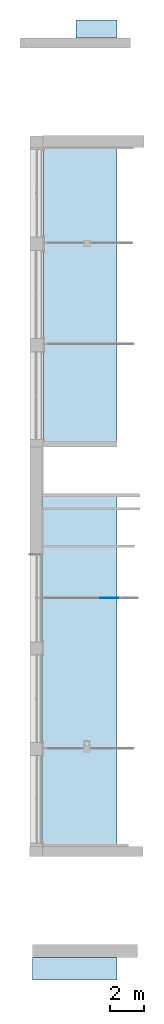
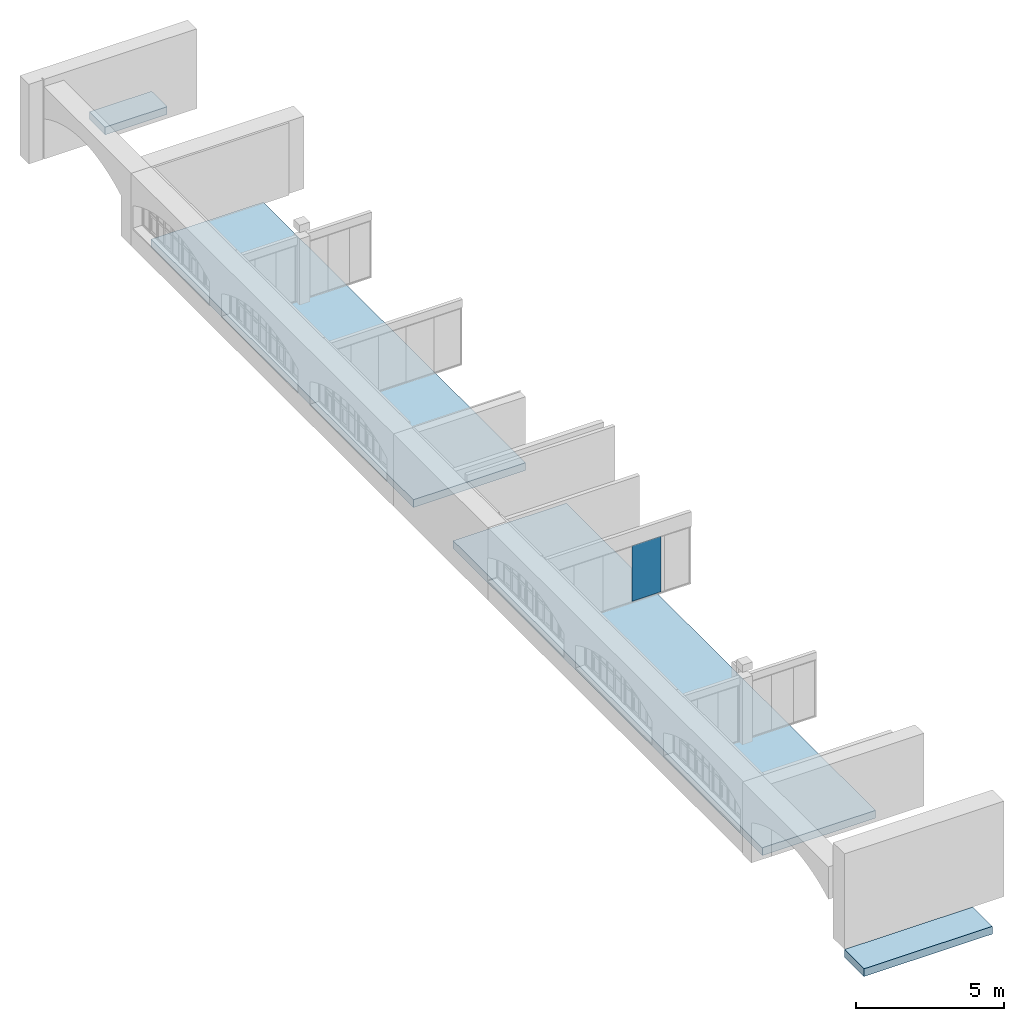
# One storey, part 22 of 32: 1 plate, 1 slab, 8 openings, 1 element without a shape of its own.
"""IFC2X3 building model written with IfcOpenShell, lengths in millimetres."""

import ifcopenshell
import ifcopenshell.guid

model = None  # the IFC model being written
_history = None  # IfcOwnerHistory: only IFC2X3 demands one
_inside = {}  # id of a spatial element -> (the spatial element, [elements in it])
_under = {}  # id of a project, library or spatial element -> (it, [spatial elements below it])
_declared = {}  # id of a project -> (the project, [libraries it declares])
_typed = {}  # id of a type object -> (the type object, [elements of that type])
_made_of = {}  # id of a material, layer set ... -> (it, [elements and type objects made of it])


def new_model(schema):
    """Start an empty IFC model of exactly this schema.

    Asked for "IFC4X3", IfcOpenShell would pick the latest addendum, in which some entities
    have other attributes; the version numbers below select the first issue.
    IFC2X3 requires an IfcOwnerHistory on every rooted entity: one is made here for all.
    """
    global model, _history
    if schema == "IFC4X3":
        model = ifcopenshell.file(schema_version=(4, 3, 0, 0))
    else:
        model = ifcopenshell.file(schema=schema)
    _inside.clear()
    _under.clear()
    _declared.clear()
    _typed.clear()
    _made_of.clear()
    _history = None
    if model.schema == "IFC2X3":
        org = make("IfcOrganization", Name="unknown")
        user = make(
            "IfcPersonAndOrganization",
            ThePerson=make("IfcPerson", FamilyName="unknown"),
            TheOrganization=org,
        )
        app = make(
            "IfcApplication",
            ApplicationDeveloper=org,
            Version="unknown",
            ApplicationFullName="unknown",
            ApplicationIdentifier="unknown",
        )
        _history = make(
            "IfcOwnerHistory",
            OwningUser=user,
            OwningApplication=app,
            ChangeAction="ADDED",
            CreationDate=0,
        )
    return model


def make(cls, **values):
    """One entity of the class cls with the attributes given. An attribute that is None is left unset."""
    return model.create_entity(
        cls, **{name: value for name, value in values.items() if value is not None}
    )


def entity(cls, *values):
    """Any entity or typed value of the class cls, its attributes in the order of the schema. None: left unset."""
    e = model.create_entity(cls)
    for i, value in enumerate(values):
        if value is not None:
            e[i] = value
    return e


def rooted(cls, **values):
    """An entity with a GlobalId (a new one), such as an element, a storey or a relation."""
    return make(cls, GlobalId=ifcopenshell.guid.new(), OwnerHistory=_history, **values)


def si_unit(unit_type, name, prefix=None):
    """IfcSIUnit, for example si_unit("LENGTHUNIT", "METRE", prefix="MILLI")."""
    return make("IfcSIUnit", UnitType=unit_type, Prefix=prefix, Name=name)


def converted_unit(unit_type, name, factor, base, dimensions=None, offset=None):
    """IfcConversionBasedUnit, such as the inch: factor (a typed value) times the base unit."""
    return make(
        "IfcConversionBasedUnit"
        if offset is None
        else "IfcConversionBasedUnitWithOffset",
        ConversionOffset=offset,
        Dimensions=None
        if dimensions is None
        else entity("IfcDimensionalExponents", *dimensions),
        UnitType=unit_type,
        Name=name,
        ConversionFactor=make(
            "IfcMeasureWithUnit", ValueComponent=factor, UnitComponent=base
        ),
    )


def derived_unit(unit_type, elements):
    """IfcDerivedUnit: a product of units, each with its exponent."""
    return make(
        "IfcDerivedUnit",
        Elements=[
            make("IfcDerivedUnitElement", Unit=unit, Exponent=power)
            for unit, power in elements
        ],
        UnitType=unit_type,
    )


def assignment(units):
    """IfcUnitAssignment: the units of a project."""
    return None if units is None else make("IfcUnitAssignment", Units=units)


def point(xyz):
    """IfcCartesianPoint."""
    return None if xyz is None else make("IfcCartesianPoint", Coordinates=xyz)


def direction(xyz):
    """IfcDirection."""
    return None if xyz is None else make("IfcDirection", DirectionRatios=xyz)


def frame(location, z_axis=None, x_axis=None):
    """IfcAxis2Placement3D, a coordinate frame: its origin and axes. An axis left out is left unset."""
    return make(
        "IfcAxis2Placement3D",
        Location=point(location),
        Axis=direction(z_axis),
        RefDirection=direction(x_axis),
    )


def frame_2d(location, x_axis=None):
    """IfcAxis2Placement2D, a coordinate frame in the plane: its origin and x axis."""
    return make(
        "IfcAxis2Placement2D", Location=point(location), RefDirection=direction(x_axis)
    )


def origin():
    """The frame at (0, 0, 0) with its axes left unset."""
    return frame((0.0, 0.0, 0.0))


def place(relative_to, where):
    """IfcLocalPlacement: puts the frame where relative to a parent placement (None: the world)."""
    return make(
        "IfcLocalPlacement", PlacementRelTo=relative_to, RelativePlacement=where
    )


def context(
    kind, dimensions, precision=None, world=None, true_north=None, identifier=None
):
    """IfcGeometricRepresentationContext, for example the 3D "Model" context."""
    return make(
        "IfcGeometricRepresentationContext",
        ContextIdentifier=identifier,
        ContextType=kind,
        CoordinateSpaceDimension=dimensions,
        Precision=precision,
        WorldCoordinateSystem=world,
        TrueNorth=true_north,
    )


def subcontext(parent, identifier, kind, view, scale=None):
    """IfcGeometricRepresentationSubContext, for example "Body" below "Model"."""
    return make(
        "IfcGeometricRepresentationSubContext",
        ContextIdentifier=identifier,
        ContextType=kind,
        ParentContext=parent,
        TargetScale=scale,
        TargetView=view,
    )


def project(units=None, contexts=None):
    """IfcProject with its units and contexts."""
    return rooted(
        "IfcProject",
        Name="project",
        RepresentationContexts=contexts,
        UnitsInContext=assignment(units),
    )


def spatial(cls, under=None, at=None, **own):
    """A site, building, storey or space (cls), placed at a placement, below another one or the project."""
    s = rooted(cls, ObjectPlacement=at, **own)
    if under is not None:
        _under.setdefault(under.id(), (under, []))[1].append(s)
    return s


def polyline(points):
    """IfcPolyline through the points."""
    return make("IfcPolyline", Points=[point(p) for p in points])


def profile(cls, at=None, kind="AREA", **sizes):
    """A parametric profile (cls). Its sizes go by their IFC names, for example OverallWidth=200.0."""
    return make(cls, ProfileType=kind, Position=at, **sizes)


def rectangle(**sizes):
    """IfcRectangleProfileDef."""
    return profile("IfcRectangleProfileDef", **sizes)


def outline(outer, holes=None, kind="AREA"):
    """IfcArbitraryClosedProfileDef: a profile drawn as a closed curve; with holes, ...WithVoids."""
    if holes is None:
        return make("IfcArbitraryClosedProfileDef", ProfileType=kind, OuterCurve=outer)
    return make(
        "IfcArbitraryProfileDefWithVoids",
        ProfileType=kind,
        OuterCurve=outer,
        InnerCurves=holes,
    )


def extrude(swept, where, along, depth):
    """IfcExtrudedAreaSolid: the profile swept, set in the frame where, extruded along a direction by depth."""
    return make(
        "IfcExtrudedAreaSolid",
        SweptArea=swept,
        Position=where,
        ExtrudedDirection=direction(along),
        Depth=depth,
    )


def shape(context_of_items, identifier, shape_type, items):
    """IfcShapeRepresentation: the items that make up one representation, for example the "Body"."""
    return make(
        "IfcShapeRepresentation",
        ContextOfItems=context_of_items,
        RepresentationIdentifier=identifier,
        RepresentationType=shape_type,
        Items=items,
    )


def source(mapping_origin, context_of_items, identifier, shape_type, items):
    """IfcRepresentationMap: a shape defined once, which mapped items show again and again."""
    return make(
        "IfcRepresentationMap",
        MappingOrigin=mapping_origin,
        MappedRepresentation=shape(context_of_items, identifier, shape_type, items),
    )


def transform(
    local_origin,
    x_axis=None,
    y_axis=None,
    z_axis=None,
    scale=None,
    scale2=None,
    scale3=None,
    uniform=True,
):
    """IfcCartesianTransformationOperator3D, or its non-uniform kind. x_axis, y_axis, z_axis: its Axis1, 2, 3."""
    if uniform:
        return make(
            "IfcCartesianTransformationOperator3D",
            Axis1=direction(x_axis),
            Axis2=direction(y_axis),
            LocalOrigin=point(local_origin),
            Scale=scale,
            Axis3=direction(z_axis),
        )
    return make(
        "IfcCartesianTransformationOperator3DnonUniform",
        Axis1=direction(x_axis),
        Axis2=direction(y_axis),
        LocalOrigin=point(local_origin),
        Scale=scale,
        Axis3=direction(z_axis),
        Scale2=scale2,
        Scale3=scale3,
    )


def mapped(mapping_source, mapping_target):
    """IfcMappedItem: shows the shape of a source again, moved by a transform."""
    return make(
        "IfcMappedItem", MappingSource=mapping_source, MappingTarget=mapping_target
    )


def material(Name=None, Category=None):
    """IfcMaterial."""
    return make("IfcMaterial", Name=Name, Category=Category)


def layer(
    of_material, thickness, ventilated=None, Name=None, Category=None, Priority=None
):
    """IfcMaterialLayer: one layer of a wall or slab, of a material (None: an air gap)."""
    return make(
        "IfcMaterialLayer",
        Material=of_material,
        LayerThickness=thickness,
        IsVentilated=ventilated,
        Name=Name,
        Category=Category,
        Priority=Priority,
    )


def layer_set(layers, Name=None):
    """IfcMaterialLayerSet."""
    return make("IfcMaterialLayerSet", MaterialLayers=layers, LayerSetName=Name)


def layer_usage(for_layer_set, set_direction, sense, offset, extent=None):
    """IfcMaterialLayerSetUsage: how a layer set lies in its element."""
    return make(
        "IfcMaterialLayerSetUsage",
        ForLayerSet=for_layer_set,
        LayerSetDirection=set_direction,
        DirectionSense=sense,
        OffsetFromReferenceLine=offset,
        ReferenceExtent=extent,
    )


def made_of(thing, what):
    """Note that an element or type object is made of a material, layer set ...; save() writes the relation."""
    if what is not None:
        _made_of.setdefault(what.id(), (what, []))[1].append(thing)
    return thing


def type_object(cls, material=None, **own):
    """A type object (cls), such as IfcWallType, which elements share."""
    return made_of(rooted(cls, **own), material)


def type_shapes(of_type, sources):
    """Give a type object the sources (RepresentationMaps) that its elements show as mapped items."""
    of_type.RepresentationMaps = sources


def element(
    cls,
    number,
    at=None,
    inside=None,
    cuts=None,
    type_object=None,
    material=None,
    context=None,
    identifier="Body",
    shape_type=None,
    held_by="IfcProductDefinitionShape",
    body=None,
    shapes=None,
    **own,
):
    """One element of the class cls, such as IfcWall. Its Tag is "e" and its number.

    at: its placement. inside: the storey or other place that contains it. cuts: it is an
    opening in that element (IfcRelVoidsElement). A single representation is given by context,
    identifier, shape_type and body (its items); several are given by shapes. held_by: the class
    of the entity that holds the representations. save() writes the other relations.
    """
    e = rooted(cls, Tag="e%d" % number, ObjectPlacement=at, **own)
    if body is not None:
        shapes = [shape(context, identifier, shape_type, body)]
    if shapes is not None:
        e.Representation = make(held_by, Representations=shapes)
    if inside is not None:
        _inside.setdefault(inside.id(), (inside, []))[1].append(e)
    if cuts is not None:
        rooted(
            "IfcRelVoidsElement", RelatingBuildingElement=cuts, RelatedOpeningElement=e
        )
    if type_object is not None:
        _typed.setdefault(type_object.id(), (type_object, []))[1].append(e)
    return made_of(e, material)


def aggregate(whole, parts):
    """IfcRelAggregates: a whole, such as a stair, and the parts it consists of."""
    return rooted("IfcRelAggregates", RelatingObject=whole, RelatedObjects=parts)


def save(model, path):
    """Write the relations noted so far, then the file.

    IfcRelAggregates (storeys below a building ...), IfcRelContainedInSpatialStructure (elements
    in a storey), IfcRelDefinesByType, IfcRelAssociatesMaterial and IfcRelDeclares: one each for
    every whole, place, type object, material and project.
    """
    for whole, parts in _under.values():
        aggregate(whole, parts)
    for where, things in _inside.values():
        rooted(
            "IfcRelContainedInSpatialStructure",
            RelatedElements=things,
            RelatingStructure=where,
        )
    for kind, things in _typed.values():
        rooted("IfcRelDefinesByType", RelatedObjects=things, RelatingType=kind)
    for what, things in _made_of.values():
        rooted("IfcRelAssociatesMaterial", RelatedObjects=things, RelatingMaterial=what)
    for by, libraries in _declared.values():
        rooted("IfcRelDeclares", RelatingContext=by, RelatedDefinitions=libraries)
    model.write(path)


model = new_model("IFC2X3")

# Units and contexts
model_context = context("Model", 3, precision=0.01, world=origin(), true_north=direction((6.123031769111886e-17, 1.0)))
body_context = subcontext(model_context, "Body", "Model", "MODEL_VIEW")
ifc_project = project(units=[si_unit("LENGTHUNIT", "METRE", prefix="MILLI"), si_unit("AREAUNIT", "SQUARE_METRE"), si_unit("VOLUMEUNIT", "CUBIC_METRE"), converted_unit("PLANEANGLEUNIT", "DEGREE", entity("IfcPlaneAngleMeasure", 0.017453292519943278), si_unit("PLANEANGLEUNIT", "RADIAN"), dimensions=[0, 0, 0, 0, 0, 0, 0]), si_unit("MASSUNIT", "GRAM", prefix="KILO"), derived_unit("MASSDENSITYUNIT", [(si_unit("MASSUNIT", "GRAM", prefix="KILO"), 1), (si_unit("LENGTHUNIT", "METRE"), -3)]), derived_unit("IONCONCENTRATIONUNIT", [(si_unit("MASSUNIT", "GRAM", prefix="KILO"), 1), (si_unit("LENGTHUNIT", "METRE"), -3)]), derived_unit("MOMENTOFINERTIAUNIT", [(si_unit("LENGTHUNIT", "METRE"), 4)]), si_unit("TIMEUNIT", "SECOND"), si_unit("FREQUENCYUNIT", "HERTZ"), si_unit("THERMODYNAMICTEMPERATUREUNIT", "DEGREE_CELSIUS"), derived_unit("THERMALTRANSMITTANCEUNIT", [(si_unit("MASSUNIT", "GRAM", prefix="KILO"), 1), (si_unit("THERMODYNAMICTEMPERATUREUNIT", "KELVIN"), -1), (si_unit("TIMEUNIT", "SECOND"), -3)]), derived_unit("THERMALCONDUCTANCEUNIT", [(si_unit("MASSUNIT", "GRAM", prefix="KILO"), 1), (si_unit("THERMODYNAMICTEMPERATUREUNIT", "KELVIN"), -1), (si_unit("TIMEUNIT", "SECOND"), -3), (si_unit("LENGTHUNIT", "METRE"), 1)]), derived_unit("VOLUMETRICFLOWRATEUNIT", [(si_unit("LENGTHUNIT", "METRE", prefix="DECI"), 3), (si_unit("TIMEUNIT", "SECOND"), -1)]), derived_unit("MASSFLOWRATEUNIT", [(si_unit("MASSUNIT", "GRAM", prefix="KILO"), 1), (si_unit("TIMEUNIT", "SECOND"), -1)]), derived_unit("ROTATIONALFREQUENCYUNIT", [(si_unit("TIMEUNIT", "SECOND"), -1)]), si_unit("ELECTRICCURRENTUNIT", "AMPERE"), si_unit("ELECTRICVOLTAGEUNIT", "VOLT"), si_unit("POWERUNIT", "WATT"), si_unit("FORCEUNIT", "NEWTON", prefix="KILO"), si_unit("ILLUMINANCEUNIT", "LUX"), si_unit("LUMINOUSFLUXUNIT", "LUMEN"), si_unit("LUMINOUSINTENSITYUNIT", "CANDELA"), si_unit("ENERGYUNIT", "JOULE"), derived_unit("USERDEFINED", [(si_unit("MASSUNIT", "GRAM", prefix="KILO"), -1), (si_unit("LENGTHUNIT", "METRE"), -2), (si_unit("TIMEUNIT", "SECOND"), 3), (si_unit("LUMINOUSFLUXUNIT", "LUMEN"), 1)]), derived_unit("USERDEFINED", [(si_unit("MASSUNIT", "GRAM", prefix="KILO"), 1), (si_unit("TIMEUNIT", "SECOND"), -3), (si_unit("LENGTHUNIT", "METRE"), 3), (si_unit("ELECTRICCURRENTUNIT", "AMPERE"), -2)]), derived_unit("SOUNDPOWERUNIT", [(si_unit("MASSUNIT", "GRAM", prefix="KILO"), 1), (si_unit("TIMEUNIT", "SECOND"), -3), (si_unit("LENGTHUNIT", "METRE"), 2)]), derived_unit("SOUNDPRESSUREUNIT", [(si_unit("MASSUNIT", "GRAM", prefix="KILO"), 1), (si_unit("LENGTHUNIT", "METRE"), -1), (si_unit("TIMEUNIT", "SECOND"), -2)]), derived_unit("LINEARVELOCITYUNIT", [(si_unit("LENGTHUNIT", "METRE"), 1), (si_unit("TIMEUNIT", "SECOND"), -1)]), si_unit("PRESSUREUNIT", "PASCAL"), derived_unit("USERDEFINED", [(si_unit("MASSUNIT", "GRAM", prefix="KILO"), 1), (si_unit("LENGTHUNIT", "METRE"), -2), (si_unit("TIMEUNIT", "SECOND"), -2)]), derived_unit("LINEARFORCEUNIT", [(si_unit("MASSUNIT", "GRAM", prefix="KILO"), 1), (si_unit("TIMEUNIT", "SECOND"), -2)]), derived_unit("PLANARFORCEUNIT", [(si_unit("MASSUNIT", "GRAM", prefix="KILO"), 1), (si_unit("LENGTHUNIT", "METRE"), -1), (si_unit("TIMEUNIT", "SECOND"), -2)]), derived_unit("SPECIFICHEATCAPACITYUNIT", [(si_unit("THERMODYNAMICTEMPERATUREUNIT", "KELVIN"), -1), (si_unit("LENGTHUNIT", "METRE"), 2), (si_unit("TIMEUNIT", "SECOND"), -2)]), derived_unit("HEATFLUXDENSITYUNIT", [(si_unit("MASSUNIT", "GRAM", prefix="KILO"), 1), (si_unit("TIMEUNIT", "SECOND"), -3)]), derived_unit("HEATINGVALUEUNIT", [(si_unit("LENGTHUNIT", "METRE"), 2), (si_unit("TIMEUNIT", "SECOND"), -2)]), derived_unit("VAPORPERMEABILITYUNIT", [(si_unit("LENGTHUNIT", "METRE"), -1), (si_unit("TIMEUNIT", "SECOND"), 1)]), derived_unit("DYNAMICVISCOSITYUNIT", [(si_unit("MASSUNIT", "GRAM", prefix="KILO"), 1), (si_unit("TIMEUNIT", "SECOND"), -1), (si_unit("LENGTHUNIT", "METRE"), -1)]), derived_unit("THERMALEXPANSIONCOEFFICIENTUNIT", [(si_unit("THERMODYNAMICTEMPERATUREUNIT", "KELVIN"), -1)]), derived_unit("MODULUSOFELASTICITYUNIT", [(si_unit("MASSUNIT", "GRAM", prefix="KILO"), 1), (si_unit("LENGTHUNIT", "METRE"), -1), (si_unit("TIMEUNIT", "SECOND"), -2)]), derived_unit("ISOTHERMALMOISTURECAPACITYUNIT", [(si_unit("MASSUNIT", "GRAM", prefix="KILO"), -1), (si_unit("LENGTHUNIT", "METRE"), 3)]), derived_unit("MOISTUREDIFFUSIVITYUNIT", [(si_unit("TIMEUNIT", "SECOND"), -1), (si_unit("LENGTHUNIT", "METRE"), 2)]), derived_unit("MASSPERLENGTHUNIT", [(si_unit("MASSUNIT", "GRAM", prefix="KILO"), 1), (si_unit("LENGTHUNIT", "METRE"), -1)]), derived_unit("THERMALRESISTANCEUNIT", [(si_unit("MASSUNIT", "GRAM", prefix="KILO"), -1), (si_unit("TIMEUNIT", "SECOND"), 3), (si_unit("THERMODYNAMICTEMPERATUREUNIT", "KELVIN"), 1)]), derived_unit("ACCELERATIONUNIT", [(si_unit("LENGTHUNIT", "METRE"), 1), (si_unit("TIMEUNIT", "SECOND"), -2)]), derived_unit("ANGULARVELOCITYUNIT", [(si_unit("TIMEUNIT", "SECOND"), -1), (si_unit("PLANEANGLEUNIT", "RADIAN"), 1)]), derived_unit("LINEARSTIFFNESSUNIT", [(si_unit("MASSUNIT", "GRAM", prefix="KILO"), 1), (si_unit("TIMEUNIT", "SECOND"), -2)]), derived_unit("WARPINGCONSTANTUNIT", [(si_unit("LENGTHUNIT", "METRE"), 6)]), derived_unit("LINEARMOMENTUNIT", [(si_unit("MASSUNIT", "GRAM", prefix="KILO"), 1), (si_unit("LENGTHUNIT", "METRE"), 1), (si_unit("TIMEUNIT", "SECOND"), -2)]), derived_unit("TORQUEUNIT", [(si_unit("MASSUNIT", "GRAM", prefix="KILO"), 1), (si_unit("LENGTHUNIT", "METRE"), 2), (si_unit("TIMEUNIT", "SECOND"), -2)])], contexts=[model_context])

# Site, building, storey
site_placement = place(None, origin())
site = spatial("IfcSite", under=ifc_project, at=site_placement, Name="Default", CompositionType="ELEMENT")
building_placement = place(site_placement, origin())
building = spatial("IfcBuilding", under=site, at=building_placement, Name="Eesti Rahvusraamatukogu hoone renoveerimise projekteerimistööd", CompositionType="ELEMENT")
storey_placement = place(building_placement, frame((0.0, 0.0, 4950.000000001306)))
storey = spatial("IfcBuildingStorey", under=building, at=storey_placement, Name="2. korrus", CompositionType="ELEMENT", Elevation=4950.000000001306)

# Slab, openings
ifc_material_1 = material(Name="ol. olev materjal")
ifc_layer = layer(ifc_material_1, 320.0)
ifc_layer_set = layer_set([ifc_layer], Name="Floor:ol. olev - 320mm")
ifc_layer_usage = layer_usage(ifc_layer_set, "AXIS3", "POSITIVE", 0.0)
slab_type = type_object("IfcSlabType", Name="Floor:ol. olev - 320mm", PredefinedType="FLOOR", material=ifc_layer_set)
slab_placement = place(storey_placement, origin())
slab = element("IfcSlab", 1, at=slab_placement, inside=storey, type_object=slab_type, material=ifc_layer_usage, Name="Floor:ol. olev - 320mm", ObjectType="Floor:ol. olev - 320mm", PredefinedType="FLOOR", context=body_context, shape_type="SweptSolid", body=[
    extrude(rectangle(XDim=5020.181568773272, YDim=1321.279790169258, at=frame_2d((2.0463630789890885e-12, 4.320099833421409e-12), x_axis=(1.0, 0.0))), frame((-34119.90921561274, -660.6398950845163, -320.0)), (0.0, 0.0, 1.0), 319.99999999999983),
    extrude(rectangle(XDim=17774.999999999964, YDim=4390.1815687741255, at=frame_2d((-913.112648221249, -922.3304991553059), x_axis=(1.0, 0.0))), frame((-34727.23971476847, 40105.6126482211, -320.0), z_axis=(0.0, 0.0, 1.0), x_axis=(0.0, 1.0, 0.0)), (0.0, 0.0, 1.0), 319.99999999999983),
    extrude(rectangle(XDim=20955.00000000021, YDim=4430.181568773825, at=frame_2d((2095.500000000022, -435.0181568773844), x_axis=(1.0, 0.0))), frame((-34259.9273724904, 14972.0, -320.0), z_axis=(0.0, 0.0, 1.0), x_axis=(0.0, 1.0, 0.0)), (0.0, 0.0, 1.0), 319.99999999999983),
    extrude(rectangle(XDim=2430.18156877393, YDim=1055.5457075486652, at=frame_2d((-2.1600499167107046e-12, -1.3017142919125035e-11), x_axis=(1.0, 0.0))), frame((-32824.90921561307, 55118.14913365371, -320.0), z_axis=(0.0, 0.0, 1.0), x_axis=(-1.0, 0.0, 0.0)), (0.0, 0.0, 1.0), 319.99999999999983),
])
opening_1_placement = place(slab_placement, origin())
element("IfcOpeningElement", 2, at=opening_1_placement, cuts=slab, Name="Floor:ol. olev - 320mm", ObjectType="Opening", context=body_context, shape_type="SweptSolid", body=[
    extrude(outline(polyline([(-17985.283074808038, -28537.142857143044), (-11995.283074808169, -28537.142857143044), (-5405.283074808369, -28537.142857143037), (-5405.283074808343, -4327.142857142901), (679.7169251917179, -4327.142857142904), (679.7169251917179, -5527.142857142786), (12194.716925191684, -5527.142857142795), (12194.716925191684, -4327.142857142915), (10254.716925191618, -4327.142857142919), (10254.716925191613, -2057.142857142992), (10815.189210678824, -2057.142857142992), (10815.189210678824, 2052.85714285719), (12434.716925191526, 2052.85714285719), (12434.716925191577, 3252.857142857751), (499.71692519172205, 3252.857142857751), (499.71692519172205, 2032.8571428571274), (-5495.283074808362, 2032.857142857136), (-5495.283074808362, 25462.857142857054), (-11995.283074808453, 25462.857142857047), (-11995.283074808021, 26242.857142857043), (-17985.283074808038, 26242.857142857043), (-17985.283074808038, -28537.142857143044)])), frame((3757.142857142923, 11995.283074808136, 0.0), z_axis=(0.0, 0.0, -1.0), x_axis=(0.0, 1.0, 0.0)), (0.0, 0.0, 1.0), 1055.5457075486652),
])
opening_2_placement = place(slab_placement, origin())
element("IfcOpeningElement", 3, at=opening_2_placement, cuts=slab, Name="Floor:ol. olev - 320mm", ObjectType="Opening", context=body_context, shape_type="SweptSolid", body=[
    extrude(outline(polyline([(-72.0, 1538.0007748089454), (3028.0, 1538.0007748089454), (3028.0, 2738.000774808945), (-3012.0, 2738.000774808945), (-3012.0, 1683.0007748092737), (-2902.0, 1683.0007748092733), (-2902.0, -5786.999225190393), (2958.0, -5786.999225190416), (2958.0, -172.00309923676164), (-72.0, -172.00309923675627), (-72.0, 1538.0007748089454)])), frame((1093.000774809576, 39418.0, 0.0), z_axis=(0.0, 0.0, -1.0), x_axis=(0.0, -1.0, 0.0)), (0.0, 0.0, 1.0), 1055.5457075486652),
])
opening_3_placement = place(slab_placement, origin())
element("IfcOpeningElement", 4, at=opening_3_placement, cuts=slab, Name="Floor:ol. olev - 320mm", ObjectType="Opening", context=body_context, shape_type="SweptSolid", body=[
    extrude(rectangle(XDim=5909.999999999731, YDim=2800.0000000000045, at=frame_2d((-4.320099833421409e-12, 0.0), x_axis=(1.0, 0.0))), frame((34140.0, 57415.0, 0.0), z_axis=(0.0, 0.0, -1.0), x_axis=(0.0, -1.0, 0.0)), (0.0, 0.0, 1.0), 1055.5457075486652),
])
opening_4_placement = place(slab_placement, origin())
element("IfcOpeningElement", 5, at=opening_4_placement, cuts=slab, Name="Floor:ol. olev - 320mm", ObjectType="Opening", context=body_context, shape_type="SweptSolid", body=[
    extrude(rectangle(XDim=5600.000000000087, YDim=2749.999999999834, at=frame_2d((0.0, 4.320099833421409e-12), x_axis=(1.0, 0.0))), frame((-28865.0, 57390.0, 0.0), z_axis=(0.0, 0.0, -1.0), x_axis=(0.0, -1.0, 0.0)), (0.0, 0.0, 1.0), 1055.5457075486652),
])
opening_5_placement = place(slab_placement, origin())
element("IfcOpeningElement", 6, at=opening_5_placement, cuts=slab, Name="Floor:ol. olev - 320mm", ObjectType="Opening", context=body_context, shape_type="SweptSolid", body=[
    extrude(rectangle(XDim=539.999999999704, YDim=839.9999999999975, at=frame_2d((0.0, 1.0800249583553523e-12), x_axis=(1.0, 0.0))), frame((-27020.0, 13950.0, 0.0), z_axis=(0.0, 0.0, -1.0), x_axis=(1.0, 0.0, 0.0)), (0.0, 0.0, 1.0), 1055.5457075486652),
])
opening_6_placement = place(slab_placement, origin())
element("IfcOpeningElement", 7, at=opening_6_placement, cuts=slab, Name="Floor:ol. olev - 320mm", ObjectType="Opening", context=body_context, shape_type="SweptSolid", body=[
    extrude(rectangle(XDim=1589.999999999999, YDim=1279.9999999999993, at=frame_2d((5.684341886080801e-13, 0.0), x_axis=(1.0, 0.0))), frame((-13433.0, -8183.156079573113, 0.0), z_axis=(0.0, 0.0, 1.0), x_axis=(0.0, 1.0, 0.0)), (0.0, 0.0, -1.0), 1055.5457075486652),
])
opening_7_placement = place(slab_placement, origin())
element("IfcOpeningElement", 8, at=opening_7_placement, cuts=slab, Name="Floor:ol. olev - 320mm", ObjectType="Opening", context=body_context, shape_type="SweptSolid", body=[
    extrude(outline(polyline([(1607.4999999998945, -677.0), (1812.5000000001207, -677.0), (1812.5000000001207, 2116.0), (-4087.499999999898, 2116.0), (-4087.499999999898, -677.0), (667.4999999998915, -677.0), (667.4999999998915, -762.0), (1607.4999999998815, -762.0), (1607.4999999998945, -677.0)])), frame((9707.500000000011, -8077.0, 0.0), z_axis=(0.0, 0.0, -1.0), x_axis=(1.0, 0.0, 0.0)), (0.0, 0.0, 1.0), 1055.5457075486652),
])
opening_8_placement = place(slab_placement, origin())
element("IfcOpeningElement", 9, at=opening_8_placement, cuts=slab, Name="Floor:ol. olev - 320mm", ObjectType="Opening", context=body_context, shape_type="SweptSolid", body=[
    extrude(outline(polyline([(-799.8333109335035, -265.42094264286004), (-799.8333109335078, -1797.1581147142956), (910.1666554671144, -1797.1581147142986), (910.1666554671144, 2062.579057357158), (-110.33334453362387, 2062.579057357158), (-110.33334453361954, -265.42094264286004), (-799.8333109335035, -265.42094264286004)])), frame((2887.1581147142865, 31620.16665546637, 0.0), z_axis=(0.0, 0.0, 1.0), x_axis=(0.0, -1.0, 0.0)), (0.0, 0.0, -1.0), 1055.5457075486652),
])

# Curtain wall, plate
curtain_wall_type = type_object("IfcCurtainWallType", Name="Curtain Wall:VLS Klaasvahesein profiilita 38db", PredefinedType="NOTDEFINED")
curtain_wall_placement = place(storey_placement, frame((0.0, 0.0, -4950.000000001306)))
curtain_wall = element("IfcCurtainWall", 10, at=curtain_wall_placement, inside=storey, type_object=curtain_wall_type, Name="Curtain Wall:VLS Klaasvahesein profiilita 38db", ObjectType="Curtain Wall:VLS Klaasvahesein profiilita 38db")
ifc_material_2 = material(Name="EST. Klaas. 1x. E-korpus")
plate_type = type_object("IfcPlateType", Name="System Panel:VLS Klaas KAR/LAM 6+1+6", PredefinedType="CURTAIN_PANEL", material=ifc_material_2)
shared_shape = source(origin(), body_context, "Body", "SweptSolid", [
    extrude(rectangle(XDim=13.000000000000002, YDim=1139.9999998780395, at=frame_2d((0.0, 5.684341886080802e-14), x_axis=(1.0, 0.0))), frame((0.0, 0.0, 0.0), z_axis=(0.0, 0.0, 1.0), x_axis=(0.0, 1.0, 0.0)), (0.0, 0.0, 1.0), 2300.0000000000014),
])
type_shapes(plate_type, [shared_shape])
plate_placement = place(curtain_wall_placement, frame((-32050.000000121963, 21350.0, 5000.0)))
plate = element("IfcPlate", 11, at=plate_placement, type_object=plate_type, material=ifc_material_2, Name="System Panel:VLS Klaas KAR/LAM 6+1+6", ObjectType="System Panel:VLS Klaas KAR/LAM 6+1+6", context=body_context, shape_type="MappedRepresentation", body=[
    mapped(shared_shape, transform((0.0, 0.0, 0.0), scale=1.0)),
])
aggregate(curtain_wall, [plate])

save(model, "model.ifc")
